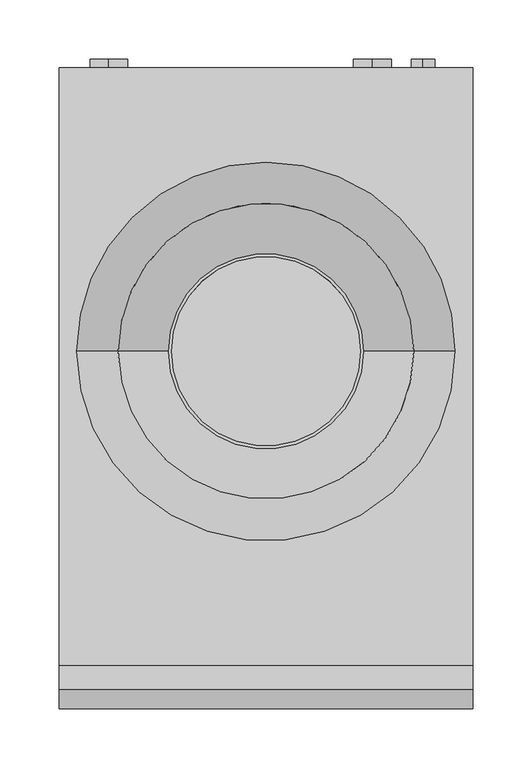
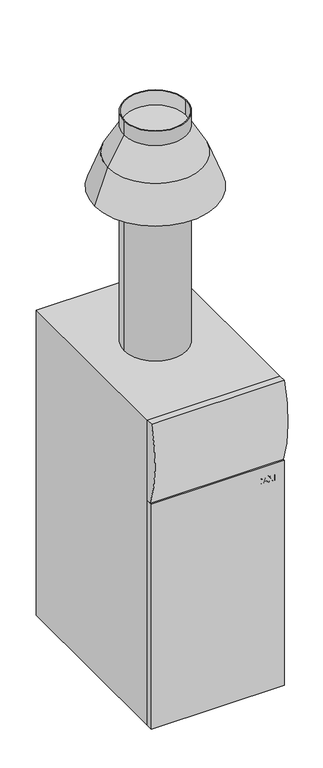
"""IFC4 building model written with IfcOpenShell, lengths in millimetres: proxy geometry, BAXI_ГазовыйКотел_Slim-iN : BAXI_Газовый котел_Slim_1.400_iN."""

from ifc_helpers import new_model, si_unit, point, frame, frame_2d, origin, origin_with_axes, place, context, project, spatial, polyline, circle_curve, trimmed, segment, composite_curve, outline, extrude, source, transform, mapped, element, save
from ifc_brep_helpers import plane_surface, cylinder_surface, revolved_surface, advanced_brep


def mechanical_equipment_e18ea89c(model_context):
    return source(origin(), model_context, "Body", "SolidModel", [
        advanced_brep(
        [(-82.5, -350.0, 1490.0), (82.5, -350.0, 1490.0), (-80.0, -350.0, 1490.0), (80.0, -350.0, 1490.0), (-82.5, -350.0, 850.0), (82.5, -350.0, 850.0), (-80.0, -350.0, 850.0), (80.0, -350.0, 850.0), (80.0, -350.0, 1450.0), (-80.0, -350.0, 1450.0), (-80.0, -350.0, 1280.0), (80.0, -350.0, 1280.0), (-160.0, -350.0, 1280.0), (160.0, -350.0, 1280.0), (-82.5, -350.0, 1280.0), (82.5, -350.0, 1280.0), (125.0, -350.0, 1374.5309749), (-125.0, -350.0, 1374.5309749), (82.5, -350.0, 1450.0), (-82.5, -350.0, 1450.0)],
        [
            (0, 1, circle_curve(frame((0.0, -350.0, 1490.0), z_axis=(0.0, 0.0, 1.0), x_axis=(1.0, 0.0, 0.0)), 82.5)),
            (1, 0, circle_curve(frame((0.0, -350.0, 1490.0), z_axis=(0.0, 0.0, 1.0), x_axis=(1.0, 0.0, 0.0)), 82.5)),
            (2, 3, circle_curve(frame((0.0, -350.0, 1490.0), z_axis=(0.0, 0.0, -1.0), x_axis=(1.0, 0.0, 0.0)), 80.0)),
            (3, 2, circle_curve(frame((0.0, -350.0, 1490.0), z_axis=(0.0, 0.0, -1.0), x_axis=(1.0, 0.0, 0.0)), 80.0)),
            (4, 5, circle_curve(frame((0.0, -350.0, 850.0), z_axis=(0.0, 0.0, -1.0), x_axis=(1.0, 0.0, 0.0)), 82.5)),
            (5, 4, circle_curve(frame((0.0, -350.0, 850.0), z_axis=(0.0, 0.0, -1.0), x_axis=(1.0, 0.0, 0.0)), 82.5)),
            (6, 7, circle_curve(frame((0.0, -350.0, 850.0), z_axis=(0.0, 0.0, 1.0), x_axis=(1.0, 0.0, 0.0)), 80.0)),
            (7, 6, circle_curve(frame((0.0, -350.0, 850.0), z_axis=(0.0, 0.0, 1.0), x_axis=(1.0, 0.0, 0.0)), 80.0)),
            (3, 8),
            (8, 9, circle_curve(frame((0.0, -350.0, 1450.0), z_axis=(0.0, 0.0, -1.0), x_axis=(1.0, 0.0, 0.0)), 80.0)),
            (9, 2),
            (6, 10),
            (10, 11, circle_curve(frame((0.0, -350.0, 1280.0), z_axis=(0.0, 0.0, 1.0), x_axis=(1.0, 0.0, 0.0)), 80.0)),
            (11, 7),
            (9, 8, circle_curve(frame((0.0, -350.0, 1450.0), z_axis=(0.0, 0.0, -1.0), x_axis=(1.0, 0.0, 0.0)), 80.0)),
            (11, 10, circle_curve(frame((0.0, -350.0, 1280.0), z_axis=(0.0, 0.0, 1.0), x_axis=(1.0, 0.0, 0.0)), 80.0)),
            (12, 13, circle_curve(frame((0.0, -350.0, 1280.0), z_axis=(0.0, 0.0, -1.0), x_axis=(-1.0, 0.0, 0.0)), 160.0)),
            (13, 12, circle_curve(frame((0.0, -350.0, 1280.0), z_axis=(0.0, 0.0, -1.0), x_axis=(1.0, 0.0, 0.0)), 160.0)),
            (14, 15, circle_curve(frame((0.0, -350.0, 1280.0), z_axis=(0.0, 0.0, 1.0), x_axis=(1.0, 0.0, 0.0)), 82.5)),
            (15, 14, circle_curve(frame((0.0, -350.0, 1280.0), z_axis=(0.0, 0.0, 1.0), x_axis=(1.0, 0.0, 0.0)), 82.5)),
            (13, 16),
            (16, 17, circle_curve(frame((0.0, -350.0, 1374.5309749), z_axis=(0.0, 0.0, -1.0), x_axis=(1.0, 0.0, 0.0)), 125.0)),
            (17, 12),
            (17, 16, circle_curve(frame((0.0, -350.0, 1374.5309749), z_axis=(0.0, 0.0, -1.0), x_axis=(-1.0, 0.0, 0.0)), 125.0)),
            (16, 18),
            (18, 19, circle_curve(frame((0.0, -350.0, 1450.0), z_axis=(0.0, 0.0, -1.0), x_axis=(-1.0, 0.0, 0.0)), 82.5)),
            (19, 17),
            (19, 18, circle_curve(frame((0.0, -350.0, 1450.0), z_axis=(0.0, 0.0, -1.0), x_axis=(1.0, 0.0, 0.0)), 82.5)),
            (0, 19),
            (18, 1),
            (5, 15),
            (14, 4),
        ],
        [
            plane_surface(frame((80.0, -350.0, 1490.0), z_axis=(0.0, 0.0, 1.0), x_axis=(0.0, -1.0, 0.0))),
            plane_surface(frame((80.0, -350.0, 850.0), z_axis=(0.0, 0.0, -1.0), x_axis=(0.0, 1.0, 0.0))),
            revolved_surface(polyline([(80.0, -350.0, 1450.0), (80.0, -350.0, 1490.0)]), (0.0, -350.0, 850.0), (0.0, 0.0, -1.0)),
            revolved_surface(polyline([(80.0, -350.0, 850.0), (80.0, -350.0, 1280.0)]), (0.0, -350.0, 850.0), (0.0, 0.0, -1.0)),
            plane_surface(frame((0.0, -350.0, 1280.0), z_axis=(0.0, 0.0, -1.0), x_axis=(0.0, -1.0, 0.0))),
            revolved_surface(polyline([(-124.99999999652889, -350.0, 1374.5309749), (-160.0, -350.0, 1280.0)]), (0.0, -350.0, 1712.1415995), (0.0, 0.0, -1.0)),
            revolved_surface(polyline([(124.99999999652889, -350.0, 1374.5309749), (160.0, -350.0, 1280.0)]), (0.0, -350.0, 1712.1415995), (0.0, 0.0, -1.0)),
            plane_surface(frame((0.0, -350.0, 1450.0), z_axis=(0.0, 0.0, 1.0), x_axis=(0.0, -1.0, 0.0))),
            revolved_surface(polyline([(82.50000000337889, -350.0, 1450.0), (125.0, -350.0, 1374.5309749)]), (0.0, -350.0, 1596.4986958), (0.0, 0.0, -1.0)),
            cylinder_surface(frame((0.0, -350.0, 0.0), z_axis=(0.0, 0.0, 1.0), x_axis=(1.0, 0.0, 0.0)), 82.5),
        ],
        [
            (0, [[1, 2], [3, 4]]),
            (1, [[5, 6], [7, 8]]),
            (2, [[-4, 9, 10, 11]]),
            (3, [[-7, 12, 13, 14]]),
            (2, [[-3, -11, 15, -9]]),
            (3, [[-8, -14, 16, -12]]),
            (4, [[-13, -16]]),
            (4, [[17, 18], [19, 20]]),
            (5, [[-18, 21, 22, 23]]),
            (6, [[-17, -23, 24, -21]]),
            (7, [[-10, -15]]),
            (8, [[25, 26, 27, -22]]),
            (8, [[-25, -24, -27, 28]]),
            (9, [[-1, 29, -26, 30]]),
            (9, [[-6, 31, -19, 32]]),
            (9, [[-2, -30, -28, -29]]),
            (9, [[-5, -32, -20, -31]]),
        ],
    ),
        extrude(outline(composite_curve([segment(polyline([(-615.5, 627.0), (-629.6849095, 627.0)]), True, "CONTINUOUS"), segment(trimmed(circle_curve(frame_2d((-322.7028253, 746.4353146)), 329.3976235), [point((-629.6849095, 627.0))], [point((-635.396206, 850.0))], False, "CARTESIAN"), True, "CONTINUOUS"), segment(polyline([(-635.396206, 850.0), (-615.5, 850.0), (-615.5, 627.0)]), True, "CONTINUOUS")], self_intersect=False)), frame((-175.0, 0.0, 0.0), z_axis=(1.0, 0.0, 0.0), x_axis=(0.0, 1.0, 0.0)), (0.0, 0.0, 1.0), 350.0),
        extrude(outline(polyline([(175.0, -615.5), (175.0, -635.0), (-175.0, -635.0), (-175.0, -615.5), (175.0, -615.5)])), origin_with_axes(), (0.0, 0.0, 1.0), 627.0),
        extrude(outline(composite_curve([segment(trimmed(circle_curve(frame_2d((435.0, 133.0)), 10.0), [point((425.0, 133.0))], [point((445.0, 133.0))], False, "CARTESIAN"), True, "CONTINUOUS"), segment(trimmed(circle_curve(frame_2d((435.0, 133.0)), 10.0), [point((445.0, 133.0))], [point((425.0, 133.0))], False, "CARTESIAN"), True, "CONTINUOUS")], self_intersect=False)), frame((0.0, -110.0, 0.0), z_axis=(0.0, 1.0, 0.0), x_axis=(0.0, 0.0, 1.0)), (0.0, 0.0, 1.0), 7.0),
        extrude(outline(composite_curve([segment(trimmed(circle_curve(frame_2d((635.0, -133.0)), 16.0), [point((619.0, -133.0))], [point((651.0, -133.0))], False, "CARTESIAN"), True, "CONTINUOUS"), segment(trimmed(circle_curve(frame_2d((635.0, -133.0)), 16.0), [point((651.0, -133.0))], [point((619.0, -133.0))], False, "CARTESIAN"), True, "CONTINUOUS")], self_intersect=False)), frame((0.0, -110.0, 0.0), z_axis=(0.0, 1.0, 0.0), x_axis=(0.0, 0.0, 1.0)), (0.0, 0.0, 1.0), 7.0),
        extrude(outline(composite_curve([segment(trimmed(circle_curve(frame_2d((60.0, 90.0)), 16.0), [point((44.0, 90.0))], [point((76.0, 90.0))], False, "CARTESIAN"), True, "CONTINUOUS"), segment(trimmed(circle_curve(frame_2d((60.0, 90.0)), 16.0), [point((76.0, 90.0))], [point((44.0, 90.0))], False, "CARTESIAN"), True, "CONTINUOUS")], self_intersect=False)), frame((0.0, -110.0, 0.0), z_axis=(0.0, 1.0, 0.0), x_axis=(0.0, 0.0, 1.0)), (0.0, 0.0, 1.0), 7.0),
        extrude(outline(polyline([(175.0, -110.0), (175.0, -615.5), (-175.0, -615.5), (-175.0, -110.0), (175.0, -110.0)])), origin_with_axes(), (0.0, 0.0, 1.0), 850.0),
        extrude(outline(polyline([(596.3910755, 105.6468806), (581.0871845, 105.6468806), (581.0871845, 110.8772283), (581.1896659, 114.6196977), (581.9127292, 116.7015886), (583.4803152, 118.033847), (585.5014764, 118.5215826), (587.7978192, 117.8421688), (589.1794205, 115.8988175), (590.5344525, 117.4607102), (592.5157598, 118.0357448), (594.3167758, 117.5537026), (595.6034868, 116.3485971), (596.2392511, 114.7088945), (596.3910755, 111.9286117), (596.3910755, 105.6468806)]), holes=[polyline([(593.7189675, 108.5619075), (593.7189675, 110.5128499), (590.3674457, 113.2532788), (590.3181028, 110.7861337), (590.3181028, 108.5619075), (593.7189675, 108.5619075)]), polyline([(587.6459949, 108.5619075), (587.6459949, 111.2529935), (583.850387, 113.928897), (583.7592924, 111.6439411), (583.7592924, 108.5619075), (587.6459949, 108.5619075)])]), frame((0.0, -635.0, 0.0), z_axis=(0.0, 1.0, 0.0), x_axis=(0.0, 0.0, 1.0)), (0.0, 0.0, 1.0), 5.0),
        extrude(outline(polyline([(581.0871845, 133.8254736), (596.3910755, 128.1852003), (596.3910755, 125.080393), (581.0871845, 119.4932582), (581.0871845, 122.5980655), (584.4880491, 123.7822951), (584.4880491, 129.5630059), (581.0871845, 130.762418), (581.0871845, 133.8254736)]), holes=[polyline([(587.1601571, 128.6292864), (587.1601571, 124.7160147), (592.7472919, 126.6593659), (587.1601571, 128.6292864)])]), frame((0.0, -635.0, 0.0), z_axis=(0.0, 1.0, 0.0), x_axis=(0.0, 0.0, 1.0)), (0.0, 0.0, 1.0), 5.0),
        extrude(outline(polyline([(581.0871845, 133.946933), (581.0871845, 137.3553889), (586.4921301, 140.8701218), (581.0871845, 144.3848547), (581.0871845, 147.7933106), (589.1110995, 142.5743498), (596.3910755, 147.3074728), (596.3910755, 143.8990169), (591.7338646, 140.8701218), (596.3910755, 137.8412267), (596.3910755, 134.4327708), (589.1110995, 139.1658939), (581.0871845, 133.946933)])), frame((0.0, -635.0, 0.0), z_axis=(0.0, 1.0, 0.0), x_axis=(0.0, 0.0, 1.0)), (0.0, 0.0, 1.0), 5.0),
        extrude(outline(polyline([(149.3722835, -630.0), (152.2873103, -630.0), (152.2873103, -635.0), (149.3722835, -635.0), (149.3722835, -630.0)])), frame((0.0, 0.0, 581.0871845), z_axis=(0.0, 0.0, 1.0), x_axis=(1.0, 0.0, 0.0)), (0.0, 0.0, 1.0), 15.303891),
    ])


if __name__ == "__main__":
    model = new_model("IFC4")
    model_context = context("Model", 3, world=origin())
    ifc_project = project(units=[si_unit("LENGTHUNIT", "METRE", prefix="MILLI")], contexts=[model_context])
    site = spatial("IfcSite", under=ifc_project)
    building = spatial("IfcBuilding", under=site)
    placement = place(None, origin())
    mechanical_equipment_shape = mechanical_equipment_e18ea89c(model_context)
    element("IfcBuildingElementProxy", 1, Name="BAXI_ГазовыйКотел_Slim-iN : BAXI_Газовый котел_Slim_1.400_iN", ObjectType="BAXI_ГазовыйКотел_Slim-iN : BAXI_Газовый котел_Slim_1.400_iN", at=placement, inside=building, context=model_context, shape_type="MappedRepresentation", body=[
        mapped(mechanical_equipment_shape, transform((0.0, 0.0, 0.0), x_axis=(1.0, 0.0, 0.0), y_axis=(0.0, 1.0, 0.0), z_axis=(0.0, 0.0, 1.0))),
    ])
    save(model, "model.ifc")
